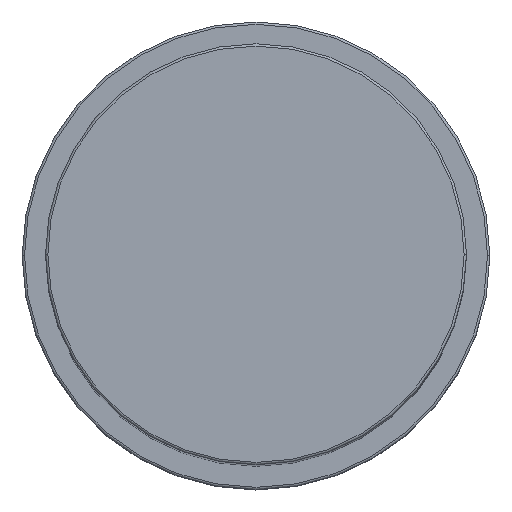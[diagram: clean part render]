
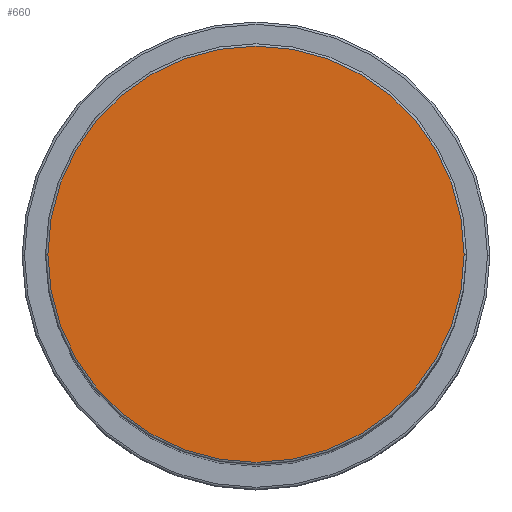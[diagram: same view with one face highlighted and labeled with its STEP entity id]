
A CAD part, top view. The second image highlights one B-rep face of the part: STEP entity #660.
In plain terms, the highlighted planar face has unit normal (0, 0, 1).
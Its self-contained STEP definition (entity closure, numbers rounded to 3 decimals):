
#14 = DIRECTION ( 'NONE',  ( 1., 0., 0. ) ) ;
#93 = DIRECTION ( 'NONE',  ( 0., 0., 1. ) ) ;
#170 = CIRCLE ( 'NONE', #822, 44.5 ) ;
#199 = VERTEX_POINT ( 'NONE', #1139 ) ;
#275 = DIRECTION ( 'NONE',  ( 0., 0., 1. ) ) ;
#300 = DIRECTION ( 'NONE',  ( 1., 0., 0. ) ) ;
#314 = CARTESIAN_POINT ( 'NONE',  ( -44.5, 0., 214. ) ) ;
#596 = CARTESIAN_POINT ( 'NONE',  ( 0., 0., 214. ) ) ;
#623 = CIRCLE ( 'NONE', #1328, 44.5 ) ;
#660 = ADVANCED_FACE ( 'NONE', ( #1495 ), #1120, .T. ) ;
#678 = DIRECTION ( 'NONE',  ( 1., 0., 0. ) ) ;
#717 = CARTESIAN_POINT ( 'NONE',  ( 0., 0., 214. ) ) ;
#783 = VERTEX_POINT ( 'NONE', #314 ) ;
#822 = AXIS2_PLACEMENT_3D ( 'NONE', #1492, #93, #678 ) ;
#907 = AXIS2_PLACEMENT_3D ( 'NONE', #717, #275, #14 ) ;
#1120 = PLANE ( 'NONE',  #907 ) ;
#1139 = CARTESIAN_POINT ( 'NONE',  ( 44.5, 0., 214. ) ) ;
#1177 = EDGE_LOOP ( 'NONE', ( #1371, #1388 ) ) ;
#1244 = EDGE_CURVE ( 'NONE', #199, #783, #623, .T. ) ;
#1282 = DIRECTION ( 'NONE',  ( 0., 0., 1. ) ) ;
#1328 = AXIS2_PLACEMENT_3D ( 'NONE', #596, #1282, #300 ) ;
#1371 = ORIENTED_EDGE ( 'NONE', *, *, #1244, .T. ) ;
#1388 = ORIENTED_EDGE ( 'NONE', *, *, #1638, .T. ) ;
#1492 = CARTESIAN_POINT ( 'NONE',  ( 0., 0., 214. ) ) ;
#1495 = FACE_OUTER_BOUND ( 'NONE', #1177, .T. ) ;
#1638 = EDGE_CURVE ( 'NONE', #783, #199, #170, .T. ) ;
